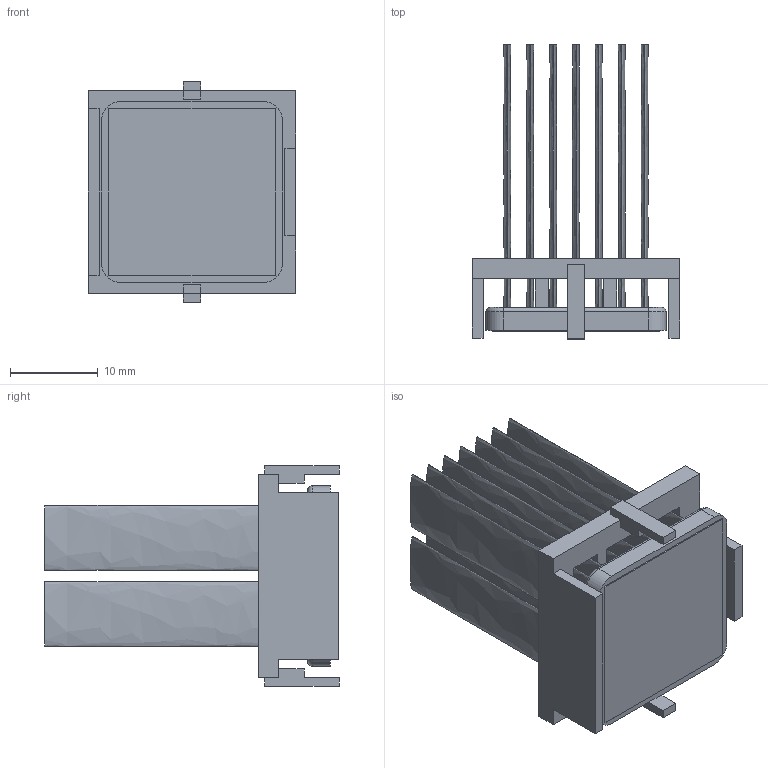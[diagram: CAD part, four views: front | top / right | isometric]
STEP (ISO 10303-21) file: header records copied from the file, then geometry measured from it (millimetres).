
FILE_DESCRIPTION (( 'STEP AP214' ), '1' );
FILE_NAME ('INM21001-33W-2.6O.STEP', '2023-03-02T21:17:57', ( '' ), ( '' ), 'SwSTEP 2.0', 'SolidWorks 2020', '' );
FILE_SCHEMA (( 'AUTOMOTIVE_DESIGN' ));
Length unit declared in the file: millimetre
Products named in the file (1): INM21001-33W-2.6O
Bounding box: 23.7 x 33.6 x 25.2 mm (x, y, z)
Volume: 4122.8 mm3; surface area: 9796.1 mm2
Topology: 3 solids, 3 shells, 124 faces, 304 edges, 200 vertices
Faces by surface type: plane 84, bspline 28, cylinder 8, torus 4
Entity records: 5088 total; most frequent: CARTESIAN_POINT 993, ORIENTED_EDGE 608, DIRECTION 462, EDGE_CURVE 304, VECTOR 228, LINE 228, VERTEX_POINT 200, EDGE_LOOP 140
